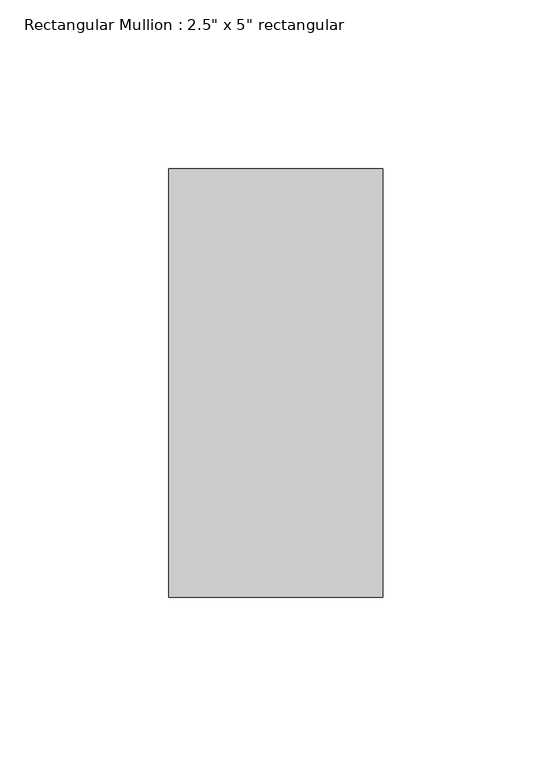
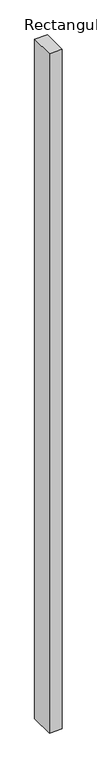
"""IFC4 building model written with IfcOpenShell, lengths in millimetres: member geometry."""

from ifc_helpers import new_model, si_unit, frame, origin, place, context, project, spatial, polyline, outline, extrude, source, transform, mapped, element, save


def member_d9f9b3f1(model_context):
    return source(origin(), model_context, "Body", "SweptSolid", [
        extrude(outline(polyline([(31.75, 63.5), (31.75, -63.5), (-31.75, -63.5), (-31.75, 63.5), (31.75, 63.5)])), frame((0.0, 0.0, -3608.8335734), z_axis=(0.0, 0.0, 1.0), x_axis=(1.0, 0.0, 0.0)), (0.0, 0.0, 1.0), 3608.8335734),
    ])


if __name__ == "__main__":
    model = new_model("IFC4")
    model_context = context("Model", 3, world=origin())
    ifc_project = project(units=[si_unit("LENGTHUNIT", "METRE", prefix="MILLI")], contexts=[model_context])
    site = spatial("IfcSite", under=ifc_project)
    building = spatial("IfcBuilding", under=site)
    placement = place(None, origin())
    member_shape = member_d9f9b3f1(model_context)
    element("IfcMember", 1, ObjectType="Rectangular Mullion : 2.5\" x 5\" rectangular", at=placement, inside=building, context=model_context, shape_type="MappedRepresentation", body=[
        mapped(member_shape, transform((0.0, 0.0, 0.0), x_axis=(1.0, 0.0, 0.0), y_axis=(0.0, 1.0, 0.0), z_axis=(0.0, 0.0, 1.0))),
    ])
    save(model, "model.ifc")
